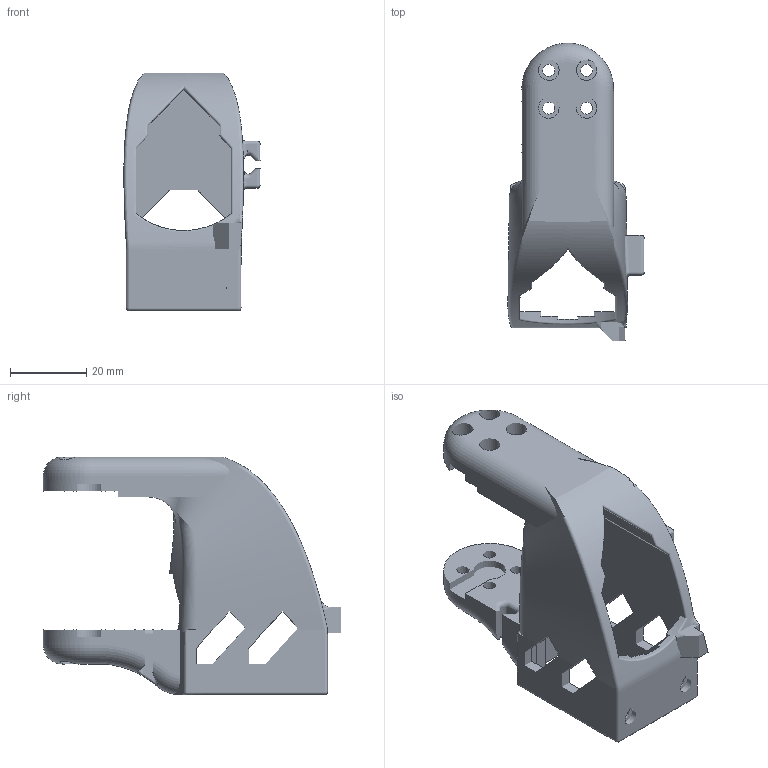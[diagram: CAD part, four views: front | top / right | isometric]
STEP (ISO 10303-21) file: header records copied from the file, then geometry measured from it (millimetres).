
FILE_DESCRIPTION(/* description */ ('STEP AP242 Edition 2','CAx-IF Rec.Pracs.---Representation and Presentation of Product Manufacturing Information (PMI)---4.0---2014-10-13','CAx-IF Rec.Pracs.---3D Tessellated Geometry---0.4---2014-09-14','2;1','CAx-IF Rec.Pracs.---User Defined Attributes---1.5---2016-08-15'),/* implementation_level */ '2;1');
FILE_NAME(/* name */ 'BambuLabA1mini_Leader_SO101 - Part 1',/* time_stamp */ '2026-11-25T15:08:23Z',/* author */ (''),/* organization */ (''),/* preprocessor_version */ 'ST-DEVELOPER v20',/* originating_system */ 'ONSHAPE BY PTC INC, 1.224',/* authorisation */ ' ');
FILE_SCHEMA (('AP242_MANAGED_MODEL_BASED_3D_ENGINEERING_MIM_LF { 1 0 10303 442 3 1 4 }'));
Length unit declared in the file: metre
Products named in the file (1): Part 1
Bounding box: 35.66 x 77.83 x 62.3 mm (x, y, z)
Surface area: 18030.1 mm2 (no closed solid volume)
Topology: 0 solids, 1 shells, 1 faces, 0 edges, 0 vertices
Faces by surface type: other 1
Entity records: 38 total; most frequent: STYLED_ITEM 2, PRESENTATION_STYLE_ASSIGNMENT 2, SURFACE_STYLE_USAGE 2, SURFACE_SIDE_STYLE 2, SURFACE_STYLE_FILL_AREA 2, FILL_AREA_STYLE 2, FILL_AREA_STYLE_COLOUR 2, DIRECTION 2
